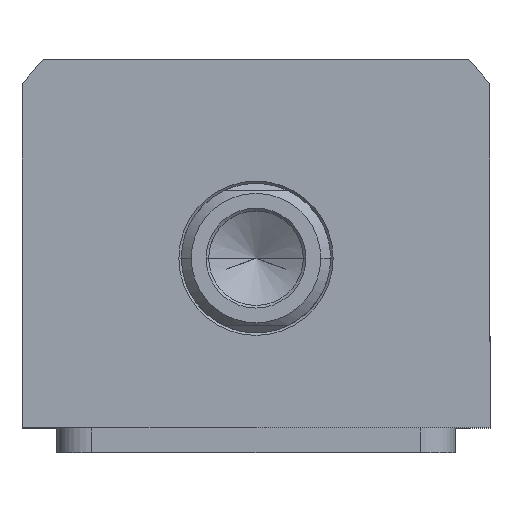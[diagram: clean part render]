
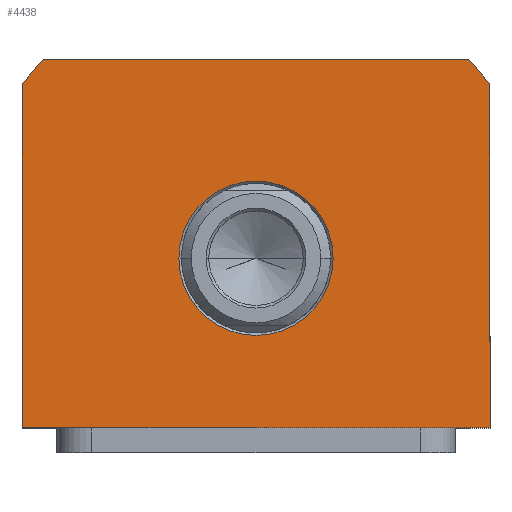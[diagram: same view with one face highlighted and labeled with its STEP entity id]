
A CAD part, top view. The second image highlights one B-rep face of the part: STEP entity #4438.
In plain terms, the highlighted planar face has unit normal (0, 0, 1).
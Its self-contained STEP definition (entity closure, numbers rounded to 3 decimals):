
#64 = DIRECTION ( 'NONE',  ( 0., 0., 1. ) ) ;
#569 = VERTEX_POINT ( 'NONE', #5323 ) ;
#598 = LINE ( 'NONE', #10094, #7371 ) ;
#819 = VERTEX_POINT ( 'NONE', #2172 ) ;
#1417 = CARTESIAN_POINT ( 'NONE',  ( 0., 0., 40. ) ) ;
#1440 = CARTESIAN_POINT ( 'NONE',  ( 15.5, 0., 40. ) ) ;
#1507 = FACE_OUTER_BOUND ( 'NONE', #3338, .T. ) ;
#1642 = ORIENTED_EDGE ( 'NONE', *, *, #5232, .T. ) ;
#1762 = CARTESIAN_POINT ( 'NONE',  ( 47., 34.832, 40. ) ) ;
#1829 = DIRECTION ( 'NONE',  ( 0., 0., 1. ) ) ;
#1861 = DIRECTION ( 'NONE',  ( 1., 0., 0. ) ) ;
#1872 = EDGE_CURVE ( 'NONE', #5134, #819, #598, .T. ) ;
#1893 = CARTESIAN_POINT ( 'NONE',  ( 47., -34., 40. ) ) ;
#1931 = CARTESIAN_POINT ( 'NONE',  ( 0., 0., 40. ) ) ;
#2104 = EDGE_CURVE ( 'NONE', #569, #4421, #4476, .T. ) ;
#2172 = CARTESIAN_POINT ( 'NONE',  ( -42.688, 40., 40. ) ) ;
#2377 = VERTEX_POINT ( 'NONE', #5476 ) ;
#2566 = ORIENTED_EDGE ( 'NONE', *, *, #7020, .T. ) ;
#2752 = VECTOR ( 'NONE', #7883, 1000. ) ;
#2932 = VECTOR ( 'NONE', #11048, 1000. ) ;
#3151 = DIRECTION ( 'NONE',  ( 0., 0., -1. ) ) ;
#3338 = EDGE_LOOP ( 'NONE', ( #8747, #2566, #6703, #7086, #4672, #5287 ) ) ;
#3351 = DIRECTION ( 'NONE',  ( 1., 0., 0. ) ) ;
#3501 = CIRCLE ( 'NONE', #9287, 15.5 ) ;
#3799 = AXIS2_PLACEMENT_3D ( 'NONE', #10171, #4652, #9274 ) ;
#4172 = CARTESIAN_POINT ( 'NONE',  ( -15.5, 0., 40. ) ) ;
#4421 = VERTEX_POINT ( 'NONE', #5657 ) ;
#4438 = ADVANCED_FACE ( 'NONE', ( #10432, #1507 ), #9230, .T. ) ;
#4476 = LINE ( 'NONE', #1893, #5499 ) ;
#4572 = AXIS2_PLACEMENT_3D ( 'NONE', #1931, #64, #11178 ) ;
#4652 = DIRECTION ( 'NONE',  ( 0., 0., 1. ) ) ;
#4654 = ORIENTED_EDGE ( 'NONE', *, *, #6772, .T. ) ;
#4672 = ORIENTED_EDGE ( 'NONE', *, *, #10555, .T. ) ;
#4892 = CARTESIAN_POINT ( 'NONE',  ( 0., 0., 40. ) ) ;
#5134 = VERTEX_POINT ( 'NONE', #7113 ) ;
#5232 = EDGE_CURVE ( 'NONE', #6112, #9491, #6393, .T. ) ;
#5287 = ORIENTED_EDGE ( 'NONE', *, *, #11323, .T. ) ;
#5323 = CARTESIAN_POINT ( 'NONE',  ( -47., -34., 40. ) ) ;
#5476 = CARTESIAN_POINT ( 'NONE',  ( 47., 34.832, 40. ) ) ;
#5499 = VECTOR ( 'NONE', #5672, 1000. ) ;
#5657 = CARTESIAN_POINT ( 'NONE',  ( 47., -34., 40. ) ) ;
#5672 = DIRECTION ( 'NONE',  ( 1., 0., 0. ) ) ;
#6112 = VERTEX_POINT ( 'NONE', #1440 ) ;
#6393 = CIRCLE ( 'NONE', #7299, 15.5 ) ;
#6703 = ORIENTED_EDGE ( 'NONE', *, *, #8025, .T. ) ;
#6772 = EDGE_CURVE ( 'NONE', #9491, #6112, #3501, .T. ) ;
#7020 = EDGE_CURVE ( 'NONE', #4421, #2377, #11827, .T. ) ;
#7086 = ORIENTED_EDGE ( 'NONE', *, *, #1872, .T. ) ;
#7113 = CARTESIAN_POINT ( 'NONE',  ( 42.688, 40., 40. ) ) ;
#7299 = AXIS2_PLACEMENT_3D ( 'NONE', #1417, #8835, #10738 ) ;
#7371 = VECTOR ( 'NONE', #8432, 1000. ) ;
#7539 = CARTESIAN_POINT ( 'NONE',  ( -47., 34.832, 40. ) ) ;
#7621 = EDGE_LOOP ( 'NONE', ( #1642, #4654 ) ) ;
#7883 = DIRECTION ( 'NONE',  ( 0., -1., 0. ) ) ;
#8025 = EDGE_CURVE ( 'NONE', #2377, #5134, #8521, .T. ) ;
#8432 = DIRECTION ( 'NONE',  ( -1., 0., 0. ) ) ;
#8521 = CIRCLE ( 'NONE', #4572, 58.5 ) ;
#8747 = ORIENTED_EDGE ( 'NONE', *, *, #2104, .T. ) ;
#8780 = CIRCLE ( 'NONE', #10873, 58.5 ) ;
#8835 = DIRECTION ( 'NONE',  ( 0., 0., -1. ) ) ;
#8978 = VERTEX_POINT ( 'NONE', #7539 ) ;
#9214 = CARTESIAN_POINT ( 'NONE',  ( 0., 0., 40. ) ) ;
#9230 = PLANE ( 'NONE',  #3799 ) ;
#9274 = DIRECTION ( 'NONE',  ( 1., 0., 0. ) ) ;
#9287 = AXIS2_PLACEMENT_3D ( 'NONE', #4892, #3151, #3351 ) ;
#9491 = VERTEX_POINT ( 'NONE', #4172 ) ;
#9687 = CARTESIAN_POINT ( 'NONE',  ( -47., -34., 40. ) ) ;
#10094 = CARTESIAN_POINT ( 'NONE',  ( -42.688, 40., 40. ) ) ;
#10171 = CARTESIAN_POINT ( 'NONE',  ( 0., 0., 40. ) ) ;
#10432 = FACE_BOUND ( 'NONE', #7621, .T. ) ;
#10555 = EDGE_CURVE ( 'NONE', #819, #8978, #8780, .T. ) ;
#10738 = DIRECTION ( 'NONE',  ( 1., 0., 0. ) ) ;
#10873 = AXIS2_PLACEMENT_3D ( 'NONE', #9214, #1829, #1861 ) ;
#11048 = DIRECTION ( 'NONE',  ( 0., 1., 0. ) ) ;
#11086 = LINE ( 'NONE', #9687, #2752 ) ;
#11178 = DIRECTION ( 'NONE',  ( 1., 0., 0. ) ) ;
#11323 = EDGE_CURVE ( 'NONE', #8978, #569, #11086, .T. ) ;
#11827 = LINE ( 'NONE', #1762, #2932 ) ;
